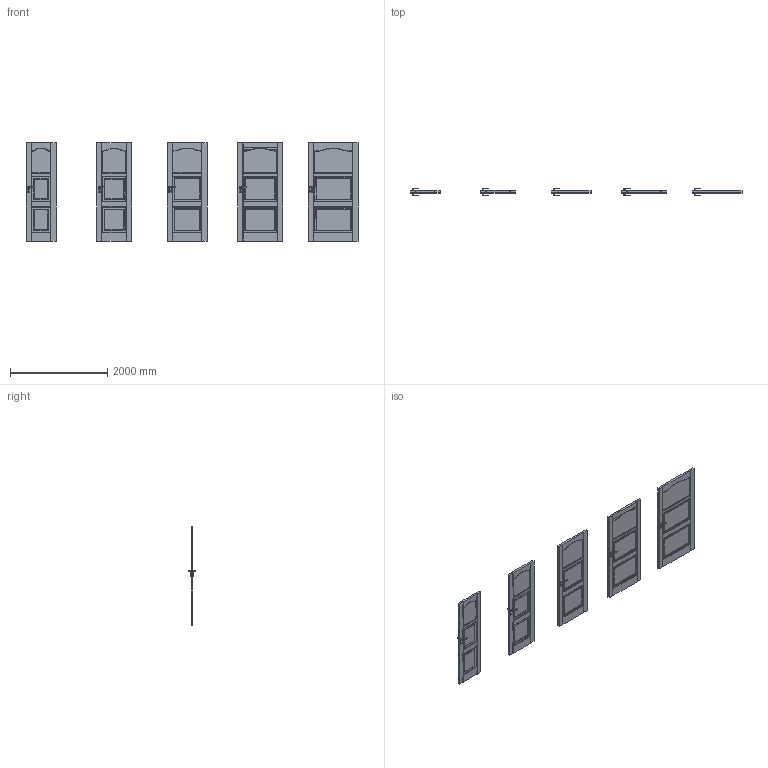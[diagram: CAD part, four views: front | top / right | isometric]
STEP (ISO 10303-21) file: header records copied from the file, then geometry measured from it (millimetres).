
FILE_DESCRIPTION(/* description */ (''),/* implementation_level */ '2;1');
FILE_NAME(/* name */ '050260_A_3-Skrzydło MADRYT model małe okienko_ polska norma _PN__ bezprzylgowe..stp',/* time_stamp */ '2025-01-31T12:20:46+01:00',/* author */ (''),/* organization */ (''),/* preprocessor_version */ 'ST-DEVELOPER v16',/* originating_system */ 'SIEMENS PLM Software NX 11.0',/* authorisation */ '');
FILE_SCHEMA (('AUTOMOTIVE_DESIGN { 1 0 10303 214 3 1 1 1 }'));
Products named in the file (1): bkni4E08F41By2yn
Bounding box: 6818 x 153.13 x 2017 mm (x, y, z)
Volume: 204175866.7 mm3; surface area: 20659790 mm2
Topology: 46 solids, 54 shells, 3416 faces, 8235 edges, 4799 vertices
Faces by surface type: plane 1550, cylinder 1080, bspline 646, sphere 140
Entity records: 107861 total; most frequent: CARTESIAN_POINT 36174, ORIENTED_EDGE 16190, DIRECTION 12676, EDGE_CURVE 8095, LINE 4942, VECTOR 4942, VERTEX_POINT 4799, AXIS2_PLACEMENT_3D 3867
